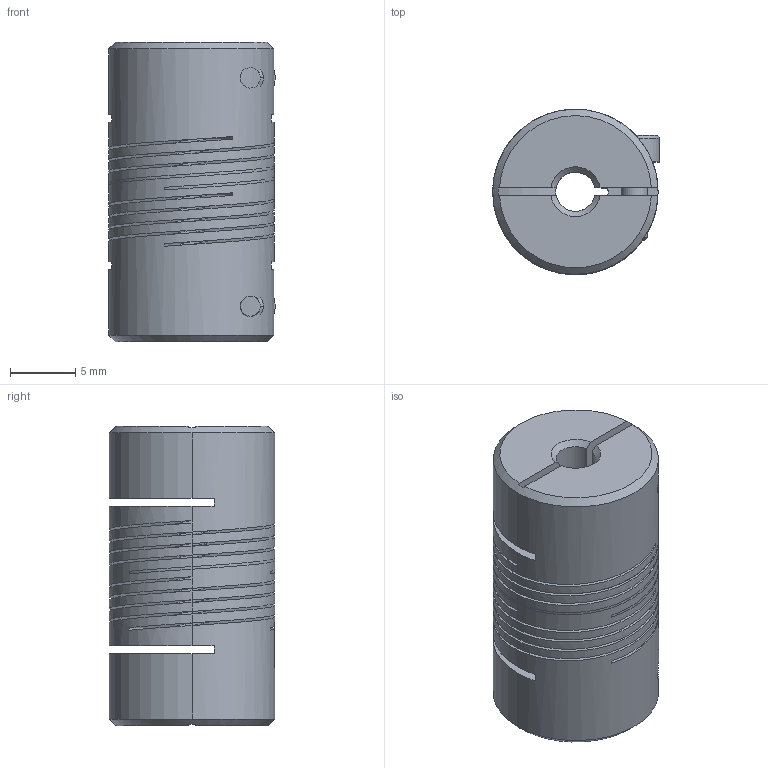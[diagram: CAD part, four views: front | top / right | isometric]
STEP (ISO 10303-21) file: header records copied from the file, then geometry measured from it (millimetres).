
FILE_DESCRIPTION((''),'2;1');
FILE_NAME('_CGS_TEMP_IGS','2026-02-24T',('SYSTEM'),(''),'PRO/ENGINEER BY PARAMETRIC TECHNOLOGY CORPORATION, 2016360','PRO/ENGINEER BY PARAMETRIC TECHNOLOGY CORPORATION, 2016360','');
FILE_SCHEMA(('AUTOMOTIVE_DESIGN { 1 0 10303 214 1 1 1 1 }'));
Length unit declared in the file: inch
Products named in the file (1): _CGS_TEMP_IGS
Bounding box: 12.71 x 12.62 x 22.85 mm (x, y, z)
Volume: 77.9 mm3; surface area: 3852.6 mm2
Topology: 2 solids, 3 shells, 145 faces, 439 edges, 287 vertices
Faces by surface type: cylinder 57, plane 54, cone 14, bspline 12, torus 8
Entity records: 8153 total; most frequent: CARTESIAN_POINT 3520, ORIENTED_EDGE 856, DIRECTION 677, EDGE_CURVE 435, VERTEX_POINT 287, AXIS2_PLACEMENT_3D 244, VECTOR 189, LINE 189
